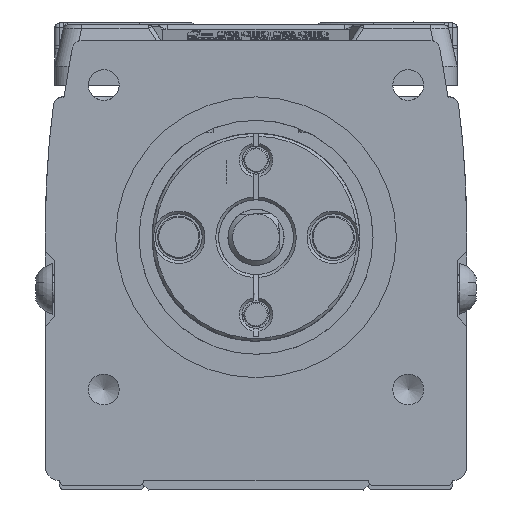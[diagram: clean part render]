
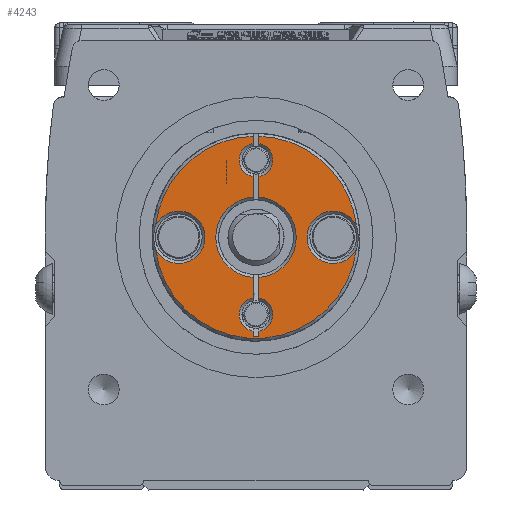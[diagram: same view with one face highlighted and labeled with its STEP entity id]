
A CAD part, left-side view. The second image highlights one B-rep face of the part: STEP entity #4243.
In plain terms, the highlighted planar face has unit normal (-1, 0, 0) as drawn and (1, 0, 0) by its records, which use the part's own axes.
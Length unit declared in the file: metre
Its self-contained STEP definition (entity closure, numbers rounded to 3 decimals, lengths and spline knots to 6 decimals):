
#4243=ADVANCED_FACE('',(#8997),#8998,.F.);
#8997=FACE_OUTER_BOUND('',#15449,.T.);
#8998=PLANE('',#15450);
#15449=EDGE_LOOP('',(#26895,#26896,#26897,#26898,#26899,#26900,#26901,#26902,#26903,#26904,#26905,#26906,#26907,#26908,#26909,#26910,#26911,#26912,#26913,#26914));
#15450=AXIS2_PLACEMENT_3D('',#26915,#26916,#26917);
#26895=ORIENTED_EDGE('',*,*,#40306,.F.);
#26896=ORIENTED_EDGE('',*,*,#39984,.T.);
#26897=ORIENTED_EDGE('',*,*,#38443,.F.);
#26898=ORIENTED_EDGE('',*,*,#40307,.F.);
#26899=ORIENTED_EDGE('',*,*,#40308,.T.);
#26900=ORIENTED_EDGE('',*,*,#40309,.T.);
#26901=ORIENTED_EDGE('',*,*,#40310,.F.);
#26902=ORIENTED_EDGE('',*,*,#40311,.F.);
#26903=ORIENTED_EDGE('',*,*,#40312,.F.);
#26904=ORIENTED_EDGE('',*,*,#40313,.T.);
#26905=ORIENTED_EDGE('',*,*,#40314,.F.);
#26906=ORIENTED_EDGE('',*,*,#40315,.F.);
#26907=ORIENTED_EDGE('',*,*,#40316,.F.);
#26908=ORIENTED_EDGE('',*,*,#38700,.F.);
#26909=ORIENTED_EDGE('',*,*,#38150,.F.);
#26910=ORIENTED_EDGE('',*,*,#38699,.F.);
#26911=ORIENTED_EDGE('',*,*,#40317,.F.);
#26912=ORIENTED_EDGE('',*,*,#38697,.F.);
#26913=ORIENTED_EDGE('',*,*,#40318,.T.);
#26914=ORIENTED_EDGE('',*,*,#40319,.F.);
#26915=CARTESIAN_POINT('',(0.0,0.0,0.));
#26916=DIRECTION('',(-1.0,0.,0.0));
#26917=DIRECTION('',(0.,-1.0,0.0));
#38150=EDGE_CURVE('',#44252,#44253,#44254,.T.);
#38443=EDGE_CURVE('',#44759,#44760,#44761,.F.);
#38697=EDGE_CURVE('',#45188,#45190,#45191,.T.);
#38699=EDGE_CURVE('',#45192,#44252,#45194,.T.);
#38700=EDGE_CURVE('',#44253,#45195,#45196,.T.);
#39984=EDGE_CURVE('',#47315,#44760,#47318,.T.);
#40306=EDGE_CURVE('',#47315,#47799,#47800,.F.);
#40307=EDGE_CURVE('',#47801,#44759,#47802,.T.);
#40308=EDGE_CURVE('',#47801,#47803,#47804,.F.);
#40309=EDGE_CURVE('',#47803,#47805,#47806,.T.);
#40310=EDGE_CURVE('',#47807,#47805,#47808,.F.);
#40311=EDGE_CURVE('',#47809,#47807,#47810,.T.);
#40312=EDGE_CURVE('',#47811,#47809,#47812,.T.);
#40313=EDGE_CURVE('',#47811,#47813,#47814,.T.);
#40314=EDGE_CURVE('',#47815,#47813,#47816,.F.);
#40315=EDGE_CURVE('',#47817,#47815,#47818,.T.);
#40316=EDGE_CURVE('',#45195,#47817,#47819,.T.);
#40317=EDGE_CURVE('',#45190,#45192,#47820,.T.);
#40318=EDGE_CURVE('',#45188,#47821,#47822,.F.);
#40319=EDGE_CURVE('',#47799,#47821,#47823,.T.);
#44252=VERTEX_POINT('',#53177);
#44253=VERTEX_POINT('',#53178);
#44254=CIRCLE('',#53179,0.0028);
#44759=VERTEX_POINT('',#54012);
#44760=VERTEX_POINT('',#54013);
#44761=LINE('',#54014,#54015);
#45188=VERTEX_POINT('',#54635);
#45190=VERTEX_POINT('',#54640);
#45191=CIRCLE('',#54641,0.0108);
#45192=VERTEX_POINT('',#54642);
#45194=CIRCLE('',#54649,0.0108);
#45195=VERTEX_POINT('',#54650);
#45196=CIRCLE('',#54651,0.0108);
#47315=VERTEX_POINT('',#57783);
#47318=CIRCLE('',#57789,0.0043);
#47799=VERTEX_POINT('',#58563);
#47800=LINE('',#58564,#58565);
#47801=VERTEX_POINT('',#58566);
#47802=CIRCLE('',#58567,0.0018);
#47803=VERTEX_POINT('',#58568);
#47804=LINE('',#58569,#58570);
#47805=VERTEX_POINT('',#58571);
#47806=LINE('',#58572,#58573);
#47807=VERTEX_POINT('',#58574);
#47808=LINE('',#58575,#58576);
#47809=VERTEX_POINT('',#58577);
#47810=CIRCLE('',#58578,0.0018);
#47811=VERTEX_POINT('',#58579);
#47812=LINE('',#58580,#58581);
#47813=VERTEX_POINT('',#58582);
#47814=CIRCLE('',#58583,0.0043);
#47815=VERTEX_POINT('',#58584);
#47816=LINE('',#58585,#58586);
#47817=VERTEX_POINT('',#58587);
#47818=CIRCLE('',#58588,0.0018);
#47819=LINE('',#58589,#58590);
#47820=CIRCLE('',#58591,0.0028);
#47821=VERTEX_POINT('',#58592);
#47822=LINE('',#58593,#58594);
#47823=CIRCLE('',#58595,0.0018);
#53177=CARTESIAN_POINT('',(0.,-0.001321,0.010719));
#53178=CARTESIAN_POINT('',(0.,0.001321,0.010719));
#53179=AXIS2_PLACEMENT_3D('',#66503,#66504,#66505);
#54012=CARTESIAN_POINT('',(0.,-0.006475,-0.0003));
#54013=CARTESIAN_POINT('',(0.,-0.00429,-0.0003));
#54014=CARTESIAN_POINT('',(0.0,0.0,-0.0003));
#54015=VECTOR('',#66860,1.0);
#54635=CARTESIAN_POINT('',(0.,0.010796,-0.0003));
#54640=CARTESIAN_POINT('',(0.,0.001321,-0.010719));
#54641=AXIS2_PLACEMENT_3D('',#67204,#67205,#67206);
#54642=CARTESIAN_POINT('',(0.,-0.001321,-0.010719));
#54649=AXIS2_PLACEMENT_3D('',#67207,#67208,#67209);
#54650=CARTESIAN_POINT('',(0.,0.010796,0.0003));
#54651=AXIS2_PLACEMENT_3D('',#67210,#67211,#67212);
#57783=CARTESIAN_POINT('',(0.,0.00429,-0.0003));
#57789=AXIS2_PLACEMENT_3D('',#68896,#68897,#68898);
#58563=CARTESIAN_POINT('',(0.,0.006475,-0.0003));
#58564=CARTESIAN_POINT('',(0.0,0.0,-0.0003));
#58565=VECTOR('',#69242,1.0);
#58566=CARTESIAN_POINT('',(0.,-0.010025,-0.0003));
#58567=AXIS2_PLACEMENT_3D('',#69243,#69244,#69245);
#58568=CARTESIAN_POINT('',(0.,-0.010642,-0.0003));
#58569=CARTESIAN_POINT('',(0.0,0.0025,-0.0003));
#58570=VECTOR('',#69246,1.0);
#58571=CARTESIAN_POINT('',(0.,-0.010642,0.0003));
#58572=CARTESIAN_POINT('',(0.,-0.010642,0.0003));
#58573=VECTOR('',#69247,1.0);
#58574=CARTESIAN_POINT('',(0.,-0.010025,0.0003));
#58575=CARTESIAN_POINT('',(0.0,0.0025,0.0003));
#58576=VECTOR('',#69248,1.0);
#58577=CARTESIAN_POINT('',(0.,-0.006475,0.0003));
#58578=AXIS2_PLACEMENT_3D('',#69249,#69250,#69251);
#58579=CARTESIAN_POINT('',(0.,-0.00429,0.0003));
#58580=CARTESIAN_POINT('',(0.0,0.0,0.0003));
#58581=VECTOR('',#69252,1.0);
#58582=CARTESIAN_POINT('',(0.0,0.00429,0.0003));
#58583=AXIS2_PLACEMENT_3D('',#69253,#69254,#69255);
#58584=CARTESIAN_POINT('',(0.0,0.006475,0.0003));
#58585=CARTESIAN_POINT('',(0.0,0.0025,0.0003));
#58586=VECTOR('',#69256,1.0);
#58587=CARTESIAN_POINT('',(0.,0.010025,0.0003));
#58588=AXIS2_PLACEMENT_3D('',#69257,#69258,#69259);
#58589=CARTESIAN_POINT('',(0.0,0.0,0.0003));
#58590=VECTOR('',#69260,1.0);
#58591=AXIS2_PLACEMENT_3D('',#69261,#69262,#69263);
#58592=CARTESIAN_POINT('',(0.,0.010025,-0.0003));
#58593=CARTESIAN_POINT('',(0.0,0.0025,-0.0003));
#58594=VECTOR('',#69264,1.0);
#58595=AXIS2_PLACEMENT_3D('',#69265,#69266,#69267);
#66503=CARTESIAN_POINT('',(0.0,0.,0.00825));
#66504=DIRECTION('',(1.0,0.,0.0));
#66505=DIRECTION('',(0.,1.0,0.0));
#66860=DIRECTION('',(0.,-1.0,0.0));
#67204=CARTESIAN_POINT('',(0.,0.0,0.));
#67205=DIRECTION('',(-1.0,0.0,0.0));
#67206=DIRECTION('',(0.0,0.0,1.0));
#67207=CARTESIAN_POINT('',(0.,0.0,0.));
#67208=DIRECTION('',(-1.0,0.0,0.0));
#67209=DIRECTION('',(0.0,0.0,1.0));
#67210=CARTESIAN_POINT('',(0.,0.0,0.));
#67211=DIRECTION('',(-1.0,0.0,0.0));
#67212=DIRECTION('',(0.0,0.0,1.0));
#68896=CARTESIAN_POINT('',(0.,0.,0.));
#68897=DIRECTION('',(-1.0,0.,0.0));
#68898=DIRECTION('',(0.,-1.0,0.0));
#69242=DIRECTION('',(0.,-1.0,0.0));
#69243=CARTESIAN_POINT('',(0.0,-0.00825,0.));
#69244=DIRECTION('',(1.0,0.0,0.0));
#69245=DIRECTION('',(0.0,0.0,-1.0));
#69246=DIRECTION('',(0.0,1.0,0.0));
#69247=DIRECTION('',(0.0,0.0,1.0));
#69248=DIRECTION('',(0.0,1.0,0.0));
#69249=CARTESIAN_POINT('',(0.0,-0.00825,0.));
#69250=DIRECTION('',(1.0,0.0,0.0));
#69251=DIRECTION('',(0.0,0.0,-1.0));
#69252=DIRECTION('',(0.,-1.0,0.0));
#69253=CARTESIAN_POINT('',(0.,0.,0.));
#69254=DIRECTION('',(-1.0,0.,0.0));
#69255=DIRECTION('',(0.,-1.0,0.0));
#69256=DIRECTION('',(0.0,1.0,0.0));
#69257=CARTESIAN_POINT('',(0.0,0.00825,0.));
#69258=DIRECTION('',(1.0,0.0,0.0));
#69259=DIRECTION('',(0.0,0.0,-1.0));
#69260=DIRECTION('',(0.,-1.0,0.0));
#69261=CARTESIAN_POINT('',(0.,0.,-0.00825));
#69262=DIRECTION('',(1.0,0.,0.0));
#69263=DIRECTION('',(0.,1.0,0.0));
#69264=DIRECTION('',(0.0,1.0,0.0));
#69265=CARTESIAN_POINT('',(0.0,0.00825,0.));
#69266=DIRECTION('',(1.0,0.0,0.0));
#69267=DIRECTION('',(0.0,0.0,-1.0));
